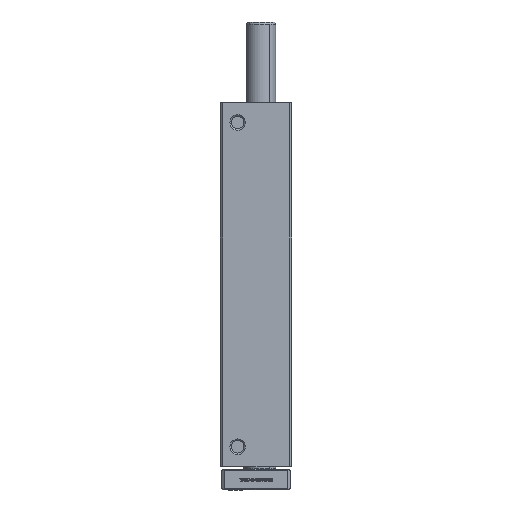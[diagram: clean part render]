
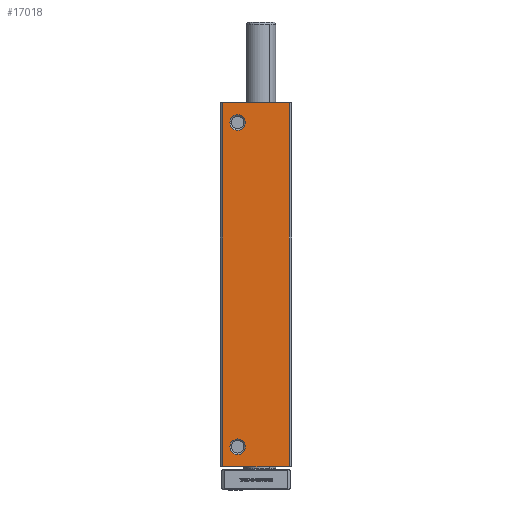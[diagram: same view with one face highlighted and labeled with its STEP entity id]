
A CAD part, left-side view. The second image highlights one B-rep face of the part: STEP entity #17018.
In plain terms, the highlighted planar face has unit normal (-1, 0, 0).
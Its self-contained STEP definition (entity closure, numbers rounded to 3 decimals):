
#140 = DIRECTION ( 'NONE',  ( 1., 0., 0. ) ) ;
#481 = VERTEX_POINT ( 'NONE', #28246 ) ;
#1668 = FACE_OUTER_BOUND ( 'NONE', #10618, .T. ) ;
#2590 = VECTOR ( 'NONE', #12069, 1000. ) ;
#2727 = CARTESIAN_POINT ( 'NONE',  ( -55., 12.5, 234.5 ) ) ;
#3264 = PLANE ( 'NONE',  #8827 ) ;
#3680 = CIRCLE ( 'NONE', #30440, 5.283 ) ;
#4155 = CARTESIAN_POINT ( 'NONE',  ( -55., 22.5, 0. ) ) ;
#4303 = CARTESIAN_POINT ( 'NONE',  ( -55., -22.5, 248. ) ) ;
#4324 = AXIS2_PLACEMENT_3D ( 'NONE', #31071, #15875, #23561 ) ;
#4464 = AXIS2_PLACEMENT_3D ( 'NONE', #30705, #140, #20339 ) ;
#5391 = CARTESIAN_POINT ( 'NONE',  ( -55., 22.5, 248. ) ) ;
#5692 = DIRECTION ( 'NONE',  ( 1., 0., 0. ) ) ;
#6224 = ORIENTED_EDGE ( 'NONE', *, *, #24262, .F. ) ;
#6236 = ORIENTED_EDGE ( 'NONE', *, *, #13903, .T. ) ;
#6318 = DIRECTION ( 'NONE',  ( 0., 1., 0. ) ) ;
#6744 = LINE ( 'NONE', #9081, #32981 ) ;
#6971 = VERTEX_POINT ( 'NONE', #17575 ) ;
#7463 = CARTESIAN_POINT ( 'NONE',  ( -55., 7.217, 13.5 ) ) ;
#8827 = AXIS2_PLACEMENT_3D ( 'NONE', #14031, #26720, #13917 ) ;
#9081 = CARTESIAN_POINT ( 'NONE',  ( -55., 22.5, 248. ) ) ;
#9099 = CARTESIAN_POINT ( 'NONE',  ( -55., 24.5, 0. ) ) ;
#9231 = VERTEX_POINT ( 'NONE', #16034 ) ;
#9310 = VERTEX_POINT ( 'NONE', #16266 ) ;
#9508 = VERTEX_POINT ( 'NONE', #12360 ) ;
#10373 = VECTOR ( 'NONE', #6318, 1000. ) ;
#10618 = EDGE_LOOP ( 'NONE', ( #22377, #6224, #15183, #14175 ) ) ;
#11498 = LINE ( 'NONE', #25788, #13090 ) ;
#11870 = EDGE_CURVE ( 'NONE', #9231, #23792, #24336, .T. ) ;
#12069 = DIRECTION ( 'NONE',  ( 0., 0., -1. ) ) ;
#12360 = CARTESIAN_POINT ( 'NONE',  ( -55., 12.5, 229.217 ) ) ;
#12493 = EDGE_LOOP ( 'NONE', ( #6236, #19826 ) ) ;
#13090 = VECTOR ( 'NONE', #30838, 1000. ) ;
#13903 = EDGE_CURVE ( 'NONE', #9310, #9508, #17021, .T. ) ;
#13917 = DIRECTION ( 'NONE',  ( 0., 1., 0. ) ) ;
#14031 = CARTESIAN_POINT ( 'NONE',  ( -55., 24.5, 248. ) ) ;
#14175 = ORIENTED_EDGE ( 'NONE', *, *, #25437, .F. ) ;
#14592 = VERTEX_POINT ( 'NONE', #4155 ) ;
#14845 = EDGE_CURVE ( 'NONE', #23792, #9231, #26536, .T. ) ;
#15183 = ORIENTED_EDGE ( 'NONE', *, *, #18351, .F. ) ;
#15875 = DIRECTION ( 'NONE',  ( 1., 0., 0. ) ) ;
#16034 = CARTESIAN_POINT ( 'NONE',  ( -55., 17.783, 13.5 ) ) ;
#16096 = LINE ( 'NONE', #4303, #2590 ) ;
#16183 = ORIENTED_EDGE ( 'NONE', *, *, #11870, .T. ) ;
#16266 = CARTESIAN_POINT ( 'NONE',  ( -55., 12.5, 239.783 ) ) ;
#16283 = DIRECTION ( 'NONE',  ( 0., -1., 0. ) ) ;
#17018 = ADVANCED_FACE ( 'NONE', ( #18808, #28731, #1668 ), #3264, .F. ) ;
#17021 = CIRCLE ( 'NONE', #4464, 5.283 ) ;
#17575 = CARTESIAN_POINT ( 'NONE',  ( -55., -22.5, 248. ) ) ;
#18351 = EDGE_CURVE ( 'NONE', #14592, #29342, #6744, .T. ) ;
#18412 = CARTESIAN_POINT ( 'NONE',  ( -55., 12.5, 13.5 ) ) ;
#18808 = FACE_BOUND ( 'NONE', #25551, .T. ) ;
#19629 = AXIS2_PLACEMENT_3D ( 'NONE', #18412, #28634, #16283 ) ;
#19826 = ORIENTED_EDGE ( 'NONE', *, *, #21766, .T. ) ;
#20339 = DIRECTION ( 'NONE',  ( 0., 0., 1. ) ) ;
#20841 = DIRECTION ( 'NONE',  ( 0., 0., 1. ) ) ;
#21766 = EDGE_CURVE ( 'NONE', #9508, #9310, #3680, .T. ) ;
#22341 = LINE ( 'NONE', #9099, #10373 ) ;
#22377 = ORIENTED_EDGE ( 'NONE', *, *, #32423, .F. ) ;
#23561 = DIRECTION ( 'NONE',  ( 0., -1., 0. ) ) ;
#23792 = VERTEX_POINT ( 'NONE', #7463 ) ;
#24262 = EDGE_CURVE ( 'NONE', #29342, #6971, #11498, .T. ) ;
#24336 = CIRCLE ( 'NONE', #4324, 5.283 ) ;
#25437 = EDGE_CURVE ( 'NONE', #481, #14592, #22341, .T. ) ;
#25551 = EDGE_LOOP ( 'NONE', ( #31386, #16183 ) ) ;
#25788 = CARTESIAN_POINT ( 'NONE',  ( -55., 24.5, 248. ) ) ;
#26536 = CIRCLE ( 'NONE', #19629, 5.283 ) ;
#26720 = DIRECTION ( 'NONE',  ( 1., 0., 0. ) ) ;
#28246 = CARTESIAN_POINT ( 'NONE',  ( -55., -22.5, 0. ) ) ;
#28634 = DIRECTION ( 'NONE',  ( 1., 0., 0. ) ) ;
#28731 = FACE_BOUND ( 'NONE', #12493, .T. ) ;
#29342 = VERTEX_POINT ( 'NONE', #5391 ) ;
#30440 = AXIS2_PLACEMENT_3D ( 'NONE', #2727, #5692, #20841 ) ;
#30705 = CARTESIAN_POINT ( 'NONE',  ( -55., 12.5, 234.5 ) ) ;
#30838 = DIRECTION ( 'NONE',  ( 0., -1., 0. ) ) ;
#31071 = CARTESIAN_POINT ( 'NONE',  ( -55., 12.5, 13.5 ) ) ;
#31386 = ORIENTED_EDGE ( 'NONE', *, *, #14845, .T. ) ;
#32423 = EDGE_CURVE ( 'NONE', #6971, #481, #16096, .T. ) ;
#32629 = DIRECTION ( 'NONE',  ( 0., 0., 1. ) ) ;
#32981 = VECTOR ( 'NONE', #32629, 1000. ) ;
